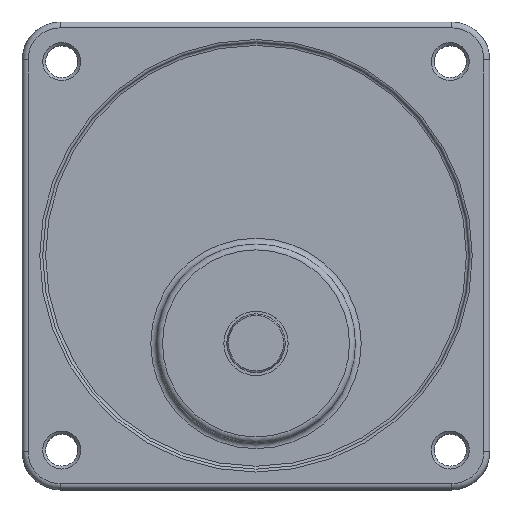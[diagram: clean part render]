
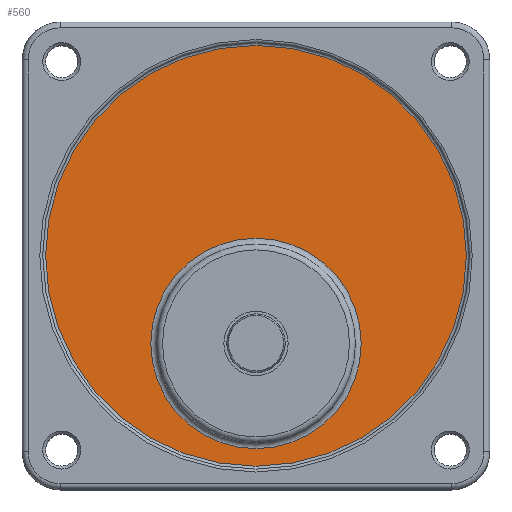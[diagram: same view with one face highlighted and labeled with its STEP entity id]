
A CAD part, top view. The second image highlights one B-rep face of the part: STEP entity #560.
In plain terms, the highlighted planar face has unit normal (0, 0, 1).
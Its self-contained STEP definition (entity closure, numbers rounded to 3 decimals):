
#509=CARTESIAN_POINT('',(58.,25.0,41.5));
#510=VERTEX_POINT('',#509);
#511=CARTESIAN_POINT('',(40.,25.0,41.5));
#512=DIRECTION('',(0.0,0.0,1.0));
#513=DIRECTION('',(-1.0,0.0,0.0));
#514=AXIS2_PLACEMENT_3D('',#511,#512,#513);
#515=CIRCLE('',#514,18.);
#516=EDGE_CURVE('',#510,#510,#515,.T.);
#541=CARTESIAN_POINT('',(40.,40.0,41.5));
#542=DIRECTION('',(0.0,0.0,-1.0));
#543=DIRECTION('',(-1.0,0.0,0.0));
#544=AXIS2_PLACEMENT_3D('',#541,#542,#543);
#545=PLANE('',#544);
#546=CARTESIAN_POINT('',(76.,40.,41.5));
#547=VERTEX_POINT('',#546);
#548=CARTESIAN_POINT('',(40.,40.0,41.5));
#549=DIRECTION('',(0.0,0.0,-1.0));
#550=DIRECTION('',(-1.0,0.0,0.0));
#551=AXIS2_PLACEMENT_3D('',#548,#549,#550);
#552=CIRCLE('',#551,36.);
#553=EDGE_CURVE('',#547,#547,#552,.T.);
#554=ORIENTED_EDGE('',*,*,#553,.F.);
#555=EDGE_LOOP('',(#554));
#556=FACE_OUTER_BOUND('',#555,.T.);
#557=ORIENTED_EDGE('',*,*,#516,.F.);
#558=EDGE_LOOP('',(#557));
#559=FACE_BOUND('',#558,.T.);
#560=ADVANCED_FACE('',(#556,#559),#545,.F.);
